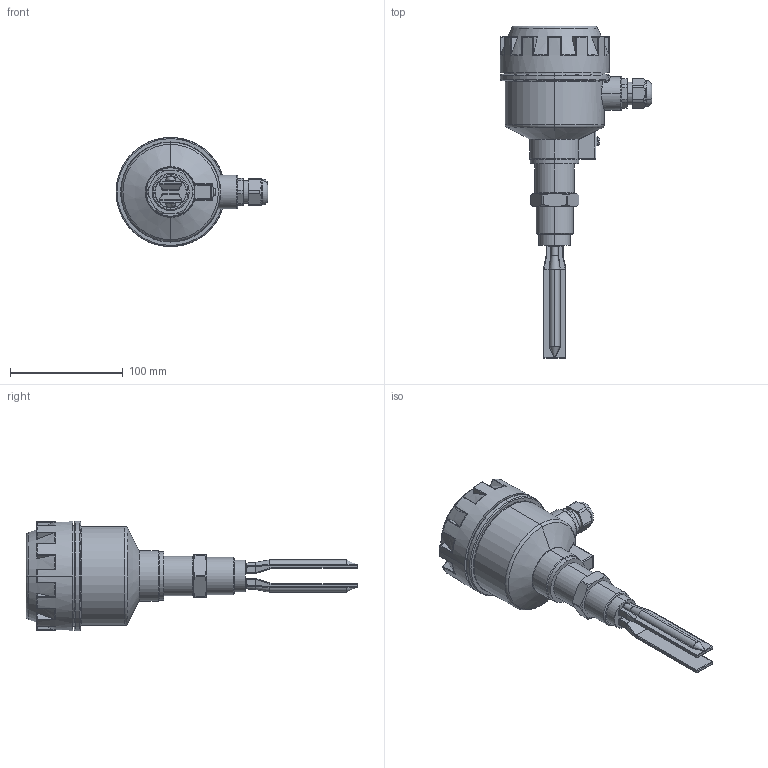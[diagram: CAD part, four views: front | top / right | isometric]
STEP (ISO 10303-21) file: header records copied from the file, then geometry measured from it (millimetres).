
FILE_DESCRIPTION (( 'STEP AP214' ), '1' );
FILE_NAME ('IL-VUA.STEP', '2020-12-14T10:39:24', ( '' ), ( '' ), 'SwSTEP 2.0', 'SolidWorks 2020', '' );
FILE_SCHEMA (( 'AUTOMOTIVE_DESIGN' ));
Length unit declared in the file: millimetre
Products named in the file (5): Êðûøêà; 扻豵鵨; 幄鼭歑; 扻錝僝鍧; IL-VUA
Assembly tree (4 placements, depth 2):
  IL-VUA
    扻豵鵨
    扻錝僝鍧
    Êðûøêà
    幄鼭歑
Bounding box: 135 x 295 x 97 mm (x, y, z)
Volume: 594810.3 mm3; surface area: 92972.6 mm2
Topology: 4 solids, 4 shells, 552 faces, 1325 edges, 762 vertices
Faces by surface type: cylinder 199, plane 115, bspline 79, sphere 68, torus 61, cone 30
Entity records: 19655 total; most frequent: CARTESIAN_POINT 7543, ORIENTED_EDGE 2570, DIRECTION 2456, EDGE_CURVE 1285, AXIS2_PLACEMENT_3D 1025, VERTEX_POINT 754, EDGE_LOOP 565, ADVANCED_FACE 552
